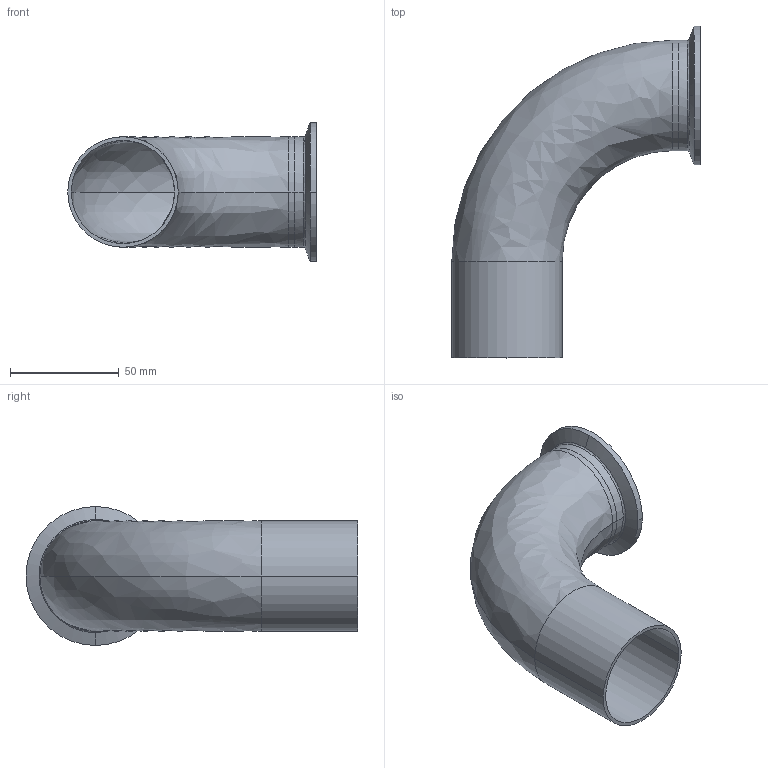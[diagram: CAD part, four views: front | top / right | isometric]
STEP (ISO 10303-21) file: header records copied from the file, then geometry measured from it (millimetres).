
FILE_DESCRIPTION (( 'STEP AP214' ), '1' );
FILE_NAME ('TE2C6L2.0-...STEP', '2016-05-22T09:33:37', ( 'eran' ), ( '' ), 'SwSTEP 2.0', 'SolidWorks 2016', '' );
FILE_SCHEMA (( 'AUTOMOTIVE_DESIGN' ));
Length unit declared in the file: millimetre
Products named in the file (1): TE2C6L2.0-..
Bounding box: 114.3 x 152.65 x 63.91 mm (x, y, z)
Volume: 49559.9 mm3; surface area: 57869.2 mm2
Topology: 2 solids, 2 shells, 39 faces, 94 edges, 60 vertices
Faces by surface type: bspline 14, cylinder 14, cone 6, plane 5
Entity records: 1924 total; most frequent: CARTESIAN_POINT 964, DIRECTION 208, ORIENTED_EDGE 188, EDGE_CURVE 94, AXIS2_PLACEMENT_3D 94, CIRCLE 68, VERTEX_POINT 60, EDGE_LOOP 44
